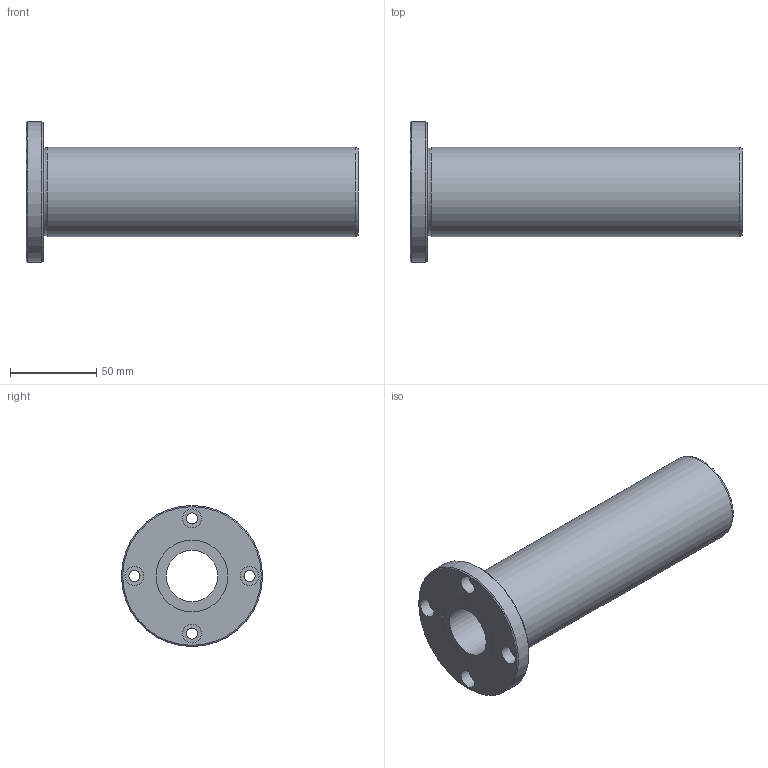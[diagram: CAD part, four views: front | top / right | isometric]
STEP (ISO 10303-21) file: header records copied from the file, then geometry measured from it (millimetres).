
FILE_DESCRIPTION((''),'2;1');
FILE_NAME('D:\製品 (図面)\カタログ用3D\メンテナンスフリー関連\STEP形式\LFL-MF\LFL30MF.stp','2010-06-01T16:04:32',('Tsuchiya'),(''),'Autodesk Inventor 10','Autodesk Inventor 10','');
FILE_SCHEMA(('AUTOMOTIVE_DESIGN { 1 0 10303 214 1 1 1 1 }'));
Length unit declared in the file: millimetre
Products named in the file (1): LFL30MF
Bounding box: 193 x 82 x 82 mm (x, y, z)
Volume: 301606.3 mm3; surface area: 60492.6 mm2
Topology: 1 solids, 1 shells, 26 faces, 47 edges, 30 vertices
Faces by surface type: cylinder 13, plane 9, cone 2, torus 1, bspline 1
Full cylindrical faces by diameter (mm): 6.6 x4, 11 x4, 30 x1, 41.7 x2, 52 x1, 82 x1
Entity records: 665 total; most frequent: CARTESIAN_POINT 149, DIRECTION 112, ORIENTED_EDGE 60, EDGE_LOOP 60, AXIS2_PLACEMENT_3D 56, FACE_BOUND 34, VERTEX_POINT 30, CIRCLE 30
